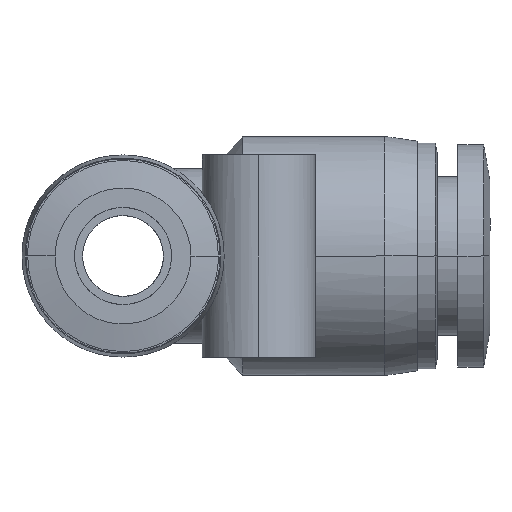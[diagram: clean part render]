
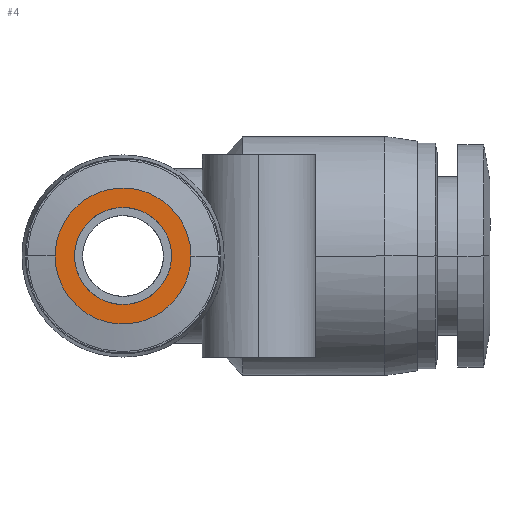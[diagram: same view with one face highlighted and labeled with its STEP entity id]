
A CAD part, left-side view. The second image highlights one B-rep face of the part: STEP entity #4.
In plain terms, the highlighted planar face has unit normal (-1, 0, 0).
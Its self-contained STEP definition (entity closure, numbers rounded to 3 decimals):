
#4 = ADVANCED_FACE ( 'NONE', ( #4159, #703 ), #3397, .T. ) ;
#26 = CARTESIAN_POINT ( 'NONE',  ( -20.25, 4.092, -1.093 ) ) ;
#125 = CARTESIAN_POINT ( 'NONE',  ( -20.25, 2.402, -1.84 ) ) ;
#174 = CARTESIAN_POINT ( 'NONE',  ( -20.25, -0.781, -2.924 ) ) ;
#242 = CARTESIAN_POINT ( 'NONE',  ( -20.25, -4.199, 0. ) ) ;
#268 = CARTESIAN_POINT ( 'NONE',  ( -20.25, 3.826, 1.734 ) ) ;
#270 = ORIENTED_EDGE ( 'NONE', *, *, #3458, .T. ) ;
#331 = CARTESIAN_POINT ( 'NONE',  ( -20.25, -4.199, -0.556 ) ) ;
#423 = CARTESIAN_POINT ( 'NONE',  ( -20.25, 4.199, 0. ) ) ;
#436 = CARTESIAN_POINT ( 'NONE',  ( -20.25, -3., 0.397 ) ) ;
#451 = AXIS2_PLACEMENT_3D ( 'NONE', #4941, #1481, #4182 ) ;
#534 = CARTESIAN_POINT ( 'NONE',  ( -20.25, 0., -3. ) ) ;
#570 = CARTESIAN_POINT ( 'NONE',  ( -20.25, 3.767, 1.86 ) ) ;
#597 = CARTESIAN_POINT ( 'NONE',  ( -20.25, 4.199, 0. ) ) ;
#606 = CARTESIAN_POINT ( 'NONE',  ( -20.25, 2.619, -1.515 ) ) ;
#675 = CARTESIAN_POINT ( 'NONE',  ( -20.25, -3.362, 2.575 ) ) ;
#703 = FACE_OUTER_BOUND ( 'NONE', #4362, .T. ) ;
#790 = CARTESIAN_POINT ( 'NONE',  ( -20.25, -0.781, 2.924 ) ) ;
#810 = CARTESIAN_POINT ( 'NONE',  ( -20.25, -1.093, -4.092 ) ) ;
#834 = CARTESIAN_POINT ( 'NONE',  ( -20.25, 3., -0.397 ) ) ;
#857 = CARTESIAN_POINT ( 'NONE',  ( -20.25, 2.924, 0.781 ) ) ;
#883 = CARTESIAN_POINT ( 'NONE',  ( -20.25, 0.781, -2.924 ) ) ;
#908 = CARTESIAN_POINT ( 'NONE',  ( -20.25, -3., -0.397 ) ) ;
#936 = CARTESIAN_POINT ( 'NONE',  ( -20.25, 0., -3. ) ) ;
#1168 = CARTESIAN_POINT ( 'NONE',  ( -20.25, -2.402, -1.84 ) ) ;
#1186 = CARTESIAN_POINT ( 'NONE',  ( -20.25, 3.362, -2.575 ) ) ;
#1354 = CARTESIAN_POINT ( 'NONE',  ( -20.25, -4.092, 1.093 ) ) ;
#1362 = CARTESIAN_POINT ( 'NONE',  ( -20.25, 2.62, 1.515 ) ) ;
#1379 = CARTESIAN_POINT ( 'NONE',  ( -20.25, 3.166, 2.772 ) ) ;
#1403 = CARTESIAN_POINT ( 'NONE',  ( -20.25, 3.638, 2.102 ) ) ;
#1450 = CARTESIAN_POINT ( 'NONE',  ( -20.25, -1.093, 4.092 ) ) ;
#1466 = CARTESIAN_POINT ( 'NONE',  ( -20.25, -2.575, -3.362 ) ) ;
#1481 = DIRECTION ( 'NONE',  ( -1., 0., 0. ) ) ;
#1542 = CARTESIAN_POINT ( 'NONE',  ( -20.25, 0., 3. ) ) ;
#1559 = CARTESIAN_POINT ( 'NONE',  ( -20.25, 3.666, -2.121 ) ) ;
#1621 = EDGE_LOOP ( 'NONE', ( #3233, #3984 ) ) ;
#1631 = CARTESIAN_POINT ( 'NONE',  ( -20.25, 1.515, 2.619 ) ) ;
#1733 = CARTESIAN_POINT ( 'NONE',  ( -20.25, 0., -3. ) ) ;
#1802 = CARTESIAN_POINT ( 'NONE',  ( -20.25, -2.575, 3.362 ) ) ;
#1868 = CARTESIAN_POINT ( 'NONE',  ( -20.25, -4.199, 0. ) ) ;
#1884 = B_SPLINE_CURVE_WITH_KNOTS ( 'NONE', 3,
 ( #1960, #2344, #26, #1559, #1186, #2654, #3429, #2723, #4263, #3502, #810, #2999, #1466, #4571, #4549, #3789, #331, #1868 ),
 .UNSPECIFIED., .F., .F.,
 ( 4, 2, 2, 2, 2, 2, 2, 2, 4 ),
 ( 0., 0.063, 0.125, 0.187, 0.25, 0.313, 0.375, 0.438, 0.5 ),
 .UNSPECIFIED. ) ;
#1960 = CARTESIAN_POINT ( 'NONE',  ( -20.25, 4.199, 0. ) ) ;
#2033 = CARTESIAN_POINT ( 'NONE',  ( -20.25, 0.398, -3. ) ) ;
#2062 = CARTESIAN_POINT ( 'NONE',  ( -20.25, -1.515, -2.619 ) ) ;
#2101 = CARTESIAN_POINT ( 'NONE',  ( -20.25, 4.09, 1.098 ) ) ;
#2138 = CARTESIAN_POINT ( 'NONE',  ( -20.25, 1.84, 2.402 ) ) ;
#2181 = CARTESIAN_POINT ( 'NONE',  ( -20.25, -2.121, 3.666 ) ) ;
#2206 = CARTESIAN_POINT ( 'NONE',  ( -20.25, 0.556, 4.199 ) ) ;
#2344 = CARTESIAN_POINT ( 'NONE',  ( -20.25, 4.199, -0.557 ) ) ;
#2368 = CARTESIAN_POINT ( 'NONE',  ( -20.25, 0.397, 3. ) ) ;
#2429 = EDGE_CURVE ( 'NONE', #4132, #3652, #3382, .T. ) ;
#2445 = CARTESIAN_POINT ( 'NONE',  ( -20.25, -2.62, -1.515 ) ) ;
#2654 = CARTESIAN_POINT ( 'NONE',  ( -20.25, 2.575, -3.362 ) ) ;
#2723 = CARTESIAN_POINT ( 'NONE',  ( -20.25, 1.093, -4.092 ) ) ;
#2848 = CARTESIAN_POINT ( 'NONE',  ( -20.25, -2.402, 1.84 ) ) ;
#2872 = CARTESIAN_POINT ( 'NONE',  ( -20.25, -2.924, -0.781 ) ) ;
#2956 = VERTEX_POINT ( 'NONE', #534 ) ;
#2984 = CARTESIAN_POINT ( 'NONE',  ( -20.25, -0.556, 4.199 ) ) ;
#2999 = CARTESIAN_POINT ( 'NONE',  ( -20.25, -2.121, -3.666 ) ) ;
#3022 = B_SPLINE_CURVE_WITH_KNOTS ( 'NONE', 3,
 ( #1733, #2033, #883, #4286, #4665, #125, #606, #4814, #834, #4310, #857, #1362, #3552, #2138, #1631, #3173, #2368, #3911 ),
 .UNSPECIFIED., .F., .F.,
 ( 4, 2, 2, 2, 2, 2, 2, 2, 4 ),
 ( 0., 0.063, 0.125, 0.188, 0.25, 0.313, 0.375, 0.438, 0.5 ),
 .UNSPECIFIED. ) ;
#3113 = ORIENTED_EDGE ( 'NONE', *, *, #2429, .T. ) ;
#3173 = CARTESIAN_POINT ( 'NONE',  ( -20.25, 0.781, 2.924 ) ) ;
#3192 = EDGE_CURVE ( 'NONE', #2956, #3469, #3022, .T. ) ;
#3225 = CARTESIAN_POINT ( 'NONE',  ( -20.25, -0.398, -3. ) ) ;
#3233 = ORIENTED_EDGE ( 'NONE', *, *, #4244, .T. ) ;
#3291 = CARTESIAN_POINT ( 'NONE',  ( -20.25, -4.199, 0. ) ) ;
#3343 = CARTESIAN_POINT ( 'NONE',  ( -20.25, 4.199, 0.552 ) ) ;
#3382 = B_SPLINE_CURVE_WITH_KNOTS ( 'NONE', 3,
 ( #3291, #4106, #1354, #4082, #675, #1802, #2181, #1450, #2984, #2206, #3725, #3751, #3674, #1379, #4861, #1403, #570, #268, #2101, #3343, #597 ),
 .UNSPECIFIED., .F., .F.,
 ( 4, 2, 2, 2, 2, 2, 2, 1, 2, 2, 4 ),
 ( 0.5, 0.563, 0.625, 0.688, 0.75, 0.813, 0.875, 0.906, 0.922, 0.938, 1. ),
 .UNSPECIFIED. ) ;
#3397 = PLANE ( 'NONE',  #451 ) ;
#3405 = CARTESIAN_POINT ( 'NONE',  ( -20.25, 0., 3. ) ) ;
#3429 = CARTESIAN_POINT ( 'NONE',  ( -20.25, 2.121, -3.666 ) ) ;
#3458 = EDGE_CURVE ( 'NONE', #3652, #4132, #1884, .T. ) ;
#3469 = VERTEX_POINT ( 'NONE', #3405 ) ;
#3484 = CARTESIAN_POINT ( 'NONE',  ( -20.25, -2.924, 0.781 ) ) ;
#3502 = CARTESIAN_POINT ( 'NONE',  ( -20.25, -0.556, -4.199 ) ) ;
#3552 = CARTESIAN_POINT ( 'NONE',  ( -20.25, 2.402, 1.84 ) ) ;
#3633 = CARTESIAN_POINT ( 'NONE',  ( -20.25, -1.515, 2.62 ) ) ;
#3652 = VERTEX_POINT ( 'NONE', #423 ) ;
#3674 = CARTESIAN_POINT ( 'NONE',  ( -20.25, 2.575, 3.362 ) ) ;
#3725 = CARTESIAN_POINT ( 'NONE',  ( -20.25, 1.093, 4.092 ) ) ;
#3751 = CARTESIAN_POINT ( 'NONE',  ( -20.25, 2.121, 3.666 ) ) ;
#3789 = CARTESIAN_POINT ( 'NONE',  ( -20.25, -4.092, -1.093 ) ) ;
#3892 = CARTESIAN_POINT ( 'NONE',  ( -20.25, -2.619, 1.515 ) ) ;
#3911 = CARTESIAN_POINT ( 'NONE',  ( -20.25, 0., 3. ) ) ;
#3984 = ORIENTED_EDGE ( 'NONE', *, *, #3192, .T. ) ;
#3989 = CARTESIAN_POINT ( 'NONE',  ( -20.25, -1.84, -2.402 ) ) ;
#4082 = CARTESIAN_POINT ( 'NONE',  ( -20.25, -3.666, 2.121 ) ) ;
#4106 = CARTESIAN_POINT ( 'NONE',  ( -20.25, -4.199, 0.556 ) ) ;
#4132 = VERTEX_POINT ( 'NONE', #242 ) ;
#4159 = FACE_BOUND ( 'NONE', #1621, .T. ) ;
#4182 = DIRECTION ( 'NONE',  ( 0., 0., 1. ) ) ;
#4244 = EDGE_CURVE ( 'NONE', #3469, #2956, #4521, .T. ) ;
#4246 = CARTESIAN_POINT ( 'NONE',  ( -20.25, -0.397, 3. ) ) ;
#4263 = CARTESIAN_POINT ( 'NONE',  ( -20.25, 0.556, -4.199 ) ) ;
#4286 = CARTESIAN_POINT ( 'NONE',  ( -20.25, 1.515, -2.62 ) ) ;
#4310 = CARTESIAN_POINT ( 'NONE',  ( -20.25, 3., 0.397 ) ) ;
#4362 = EDGE_LOOP ( 'NONE', ( #270, #3113 ) ) ;
#4521 = B_SPLINE_CURVE_WITH_KNOTS ( 'NONE', 3,
 ( #1542, #4246, #790, #3633, #4623, #2848, #3892, #3484, #436, #908, #2872, #2445, #1168, #3989, #2062, #174, #3225, #936 ),
 .UNSPECIFIED., .F., .F.,
 ( 4, 2, 2, 2, 2, 2, 2, 2, 4 ),
 ( 0.5, 0.563, 0.625, 0.688, 0.75, 0.813, 0.875, 0.938, 1. ),
 .UNSPECIFIED. ) ;
#4549 = CARTESIAN_POINT ( 'NONE',  ( -20.25, -3.666, -2.121 ) ) ;
#4571 = CARTESIAN_POINT ( 'NONE',  ( -20.25, -3.362, -2.575 ) ) ;
#4623 = CARTESIAN_POINT ( 'NONE',  ( -20.25, -1.84, 2.402 ) ) ;
#4665 = CARTESIAN_POINT ( 'NONE',  ( -20.25, 1.84, -2.402 ) ) ;
#4814 = CARTESIAN_POINT ( 'NONE',  ( -20.25, 2.924, -0.781 ) ) ;
#4861 = CARTESIAN_POINT ( 'NONE',  ( -20.25, 3.427, 2.454 ) ) ;
#4941 = CARTESIAN_POINT ( 'NONE',  ( -20.25, 4.199, 0. ) ) ;
